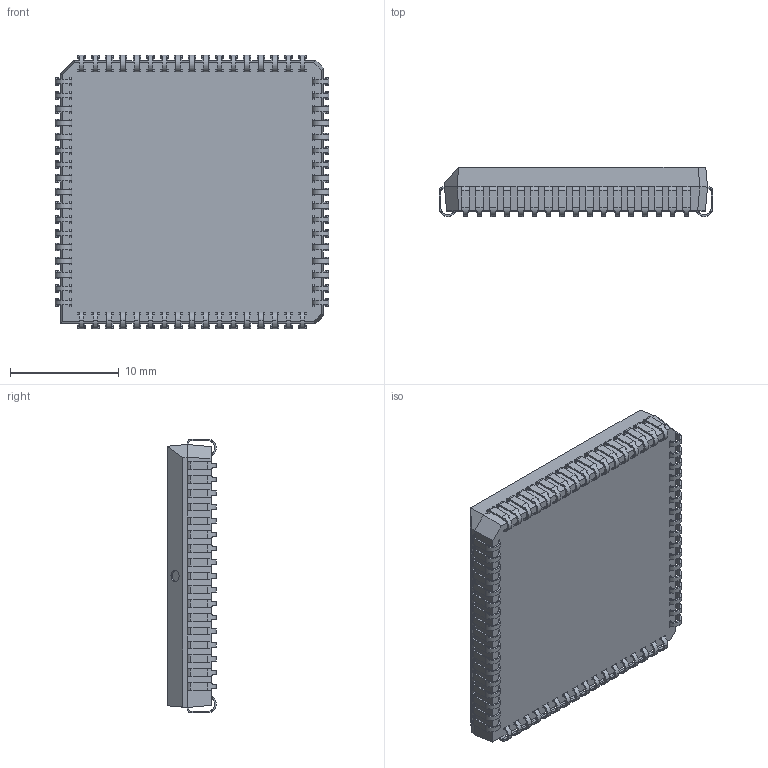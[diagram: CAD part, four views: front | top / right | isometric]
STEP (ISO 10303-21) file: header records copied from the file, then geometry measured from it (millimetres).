
FILE_DESCRIPTION (( 'STEP AP214' ), '1' );
FILE_NAME ('PLCC68.STEP', '2011-01-31T08:15:32', ( 'vpeshkov' ), ( 'licard' ), 'SwSTEP 2.0', 'SolidWorks 2009', '' );
FILE_SCHEMA (( 'AUTOMOTIVE_DESIGN' ));
Length unit declared in the file: millimetre
Products named in the file (1): PLCC68
Bounding box: 25.2 x 4.5 x 25.2 mm (x, y, z)
Volume: 2310.7 mm3; surface area: 1903.6 mm2
Topology: 1 solids, 1 shells, 1142 faces, 3481 edges, 2274 vertices
Faces by surface type: cylinder 580, plane 562
Entity records: 54123 total; most frequent: CARTESIAN_POINT 10648, ORIENTED_EDGE 6962, DIRECTION 6111, EDGE_CURVE 3481, VERTEX_POINT 2274, VECTOR 2049, LINE 2049, AXIS2_PLACEMENT_3D 2031
